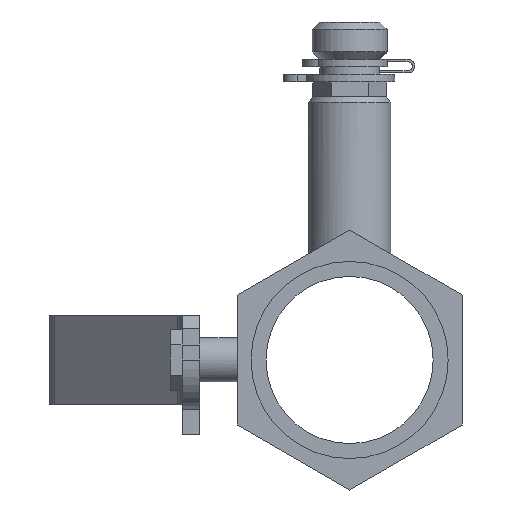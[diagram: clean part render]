
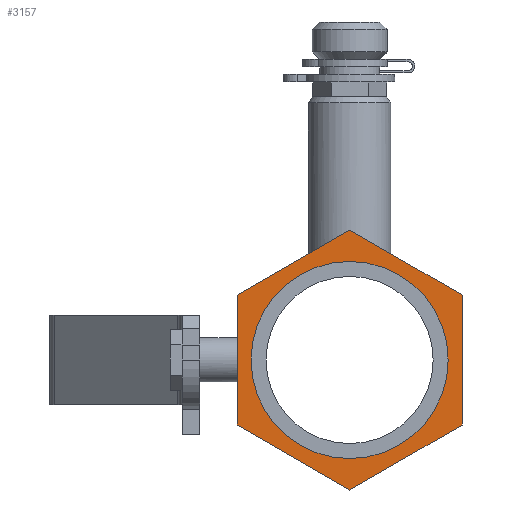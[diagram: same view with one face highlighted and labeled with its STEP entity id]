
A CAD part, left-side view. The second image highlights one B-rep face of the part: STEP entity #3157.
In plain terms, the highlighted planar face has unit normal (-1, 0, 0).
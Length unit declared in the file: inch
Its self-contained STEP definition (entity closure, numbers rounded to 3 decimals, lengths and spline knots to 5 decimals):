
#81=FACE_BOUND('',#520,.T.);
#180=PLANE('',#3451);
#336=FACE_OUTER_BOUND('',#519,.T.);
#519=EDGE_LOOP('',(#2687,#2688,#2689,#2690,#2691,#2692));
#520=EDGE_LOOP('',(#2693,#2694));
#657=CIRCLE('',#3452,0.6575);
#658=CIRCLE('',#3453,0.6575);
#865=LINE('',#5105,#1165);
#870=LINE('',#5115,#1170);
#882=LINE('',#5151,#1182);
#885=LINE('',#5156,#1185);
#887=LINE('',#5159,#1187);
#888=LINE('',#5161,#1188);
#1165=VECTOR('',#4118,0.3937);
#1170=VECTOR('',#4125,0.3937);
#1182=VECTOR('',#4163,0.3937);
#1185=VECTOR('',#4168,0.3937);
#1187=VECTOR('',#4172,0.3937);
#1188=VECTOR('',#4175,0.3937);
#1462=VERTEX_POINT('',#5103);
#1463=VERTEX_POINT('',#5104);
#1467=VERTEX_POINT('',#5114);
#1477=VERTEX_POINT('',#5149);
#1478=VERTEX_POINT('',#5150);
#1479=VERTEX_POINT('',#5155);
#1498=VERTEX_POINT('',#5226);
#1499=VERTEX_POINT('',#5227);
#1843=EDGE_CURVE('',#1462,#1463,#865,.T.);
#1848=EDGE_CURVE('',#1467,#1462,#870,.T.);
#1866=EDGE_CURVE('',#1477,#1478,#882,.T.);
#1869=EDGE_CURVE('',#1479,#1477,#885,.T.);
#1871=EDGE_CURVE('',#1463,#1479,#887,.T.);
#1872=EDGE_CURVE('',#1478,#1467,#888,.T.);
#1904=EDGE_CURVE('',#1498,#1499,#657,.T.);
#1905=EDGE_CURVE('',#1499,#1498,#658,.T.);
#2687=ORIENTED_EDGE('',*,*,#1871,.T.);
#2688=ORIENTED_EDGE('',*,*,#1869,.T.);
#2689=ORIENTED_EDGE('',*,*,#1866,.T.);
#2690=ORIENTED_EDGE('',*,*,#1872,.T.);
#2691=ORIENTED_EDGE('',*,*,#1848,.T.);
#2692=ORIENTED_EDGE('',*,*,#1843,.T.);
#2693=ORIENTED_EDGE('',*,*,#1904,.F.);
#2694=ORIENTED_EDGE('',*,*,#1905,.F.);
#3157=ADVANCED_FACE('',(#336,#81),#180,.T.);
#3451=AXIS2_PLACEMENT_3D('',#5225,#4241,#4242);
#3452=AXIS2_PLACEMENT_3D('',#5228,#4243,#4244);
#3453=AXIS2_PLACEMENT_3D('',#5229,#4245,#4246);
#4118=DIRECTION('',(0.,0.,1.));
#4125=DIRECTION('',(0.,-0.866,0.5));
#4163=DIRECTION('',(0.,0.,-1.));
#4168=DIRECTION('',(0.,0.866,-0.5));
#4172=DIRECTION('',(0.,0.866,0.5));
#4175=DIRECTION('',(0.,-0.866,-0.5));
#4241=DIRECTION('center_axis',(-1.,0.,0.));
#4242=DIRECTION('ref_axis',(0.,0.,1.));
#4243=DIRECTION('center_axis',(-1.,0.,0.));
#4244=DIRECTION('ref_axis',(0.,0.,1.));
#4245=DIRECTION('center_axis',(-1.,0.,0.));
#4246=DIRECTION('ref_axis',(0.,0.,1.));
#5103=CARTESIAN_POINT('',(-1.565,-0.751,-0.43359));
#5104=CARTESIAN_POINT('',(-1.565,-0.751,0.43359));
#5105=CARTESIAN_POINT('',(-1.565,-0.751,-0.43359));
#5114=CARTESIAN_POINT('',(-1.565,0.,-0.86718));
#5115=CARTESIAN_POINT('',(-1.565,0.,-0.86718));
#5149=CARTESIAN_POINT('',(-1.565,0.751,0.43359));
#5150=CARTESIAN_POINT('',(-1.565,0.751,-0.43359));
#5151=CARTESIAN_POINT('',(-1.565,0.751,0.43359));
#5155=CARTESIAN_POINT('',(-1.565,0.,0.86718));
#5156=CARTESIAN_POINT('',(-1.565,0.,0.86718));
#5159=CARTESIAN_POINT('',(-1.565,-0.751,0.43359));
#5161=CARTESIAN_POINT('',(-1.565,0.751,-0.43359));
#5225=CARTESIAN_POINT('Origin',(-1.565,0.6575,0.));
#5226=CARTESIAN_POINT('',(-1.565,0.,-0.6575));
#5227=CARTESIAN_POINT('',(-1.565,-0.6575,0.));
#5228=CARTESIAN_POINT('Origin',(-1.565,0.,0.));
#5229=CARTESIAN_POINT('Origin',(-1.565,0.,0.));
